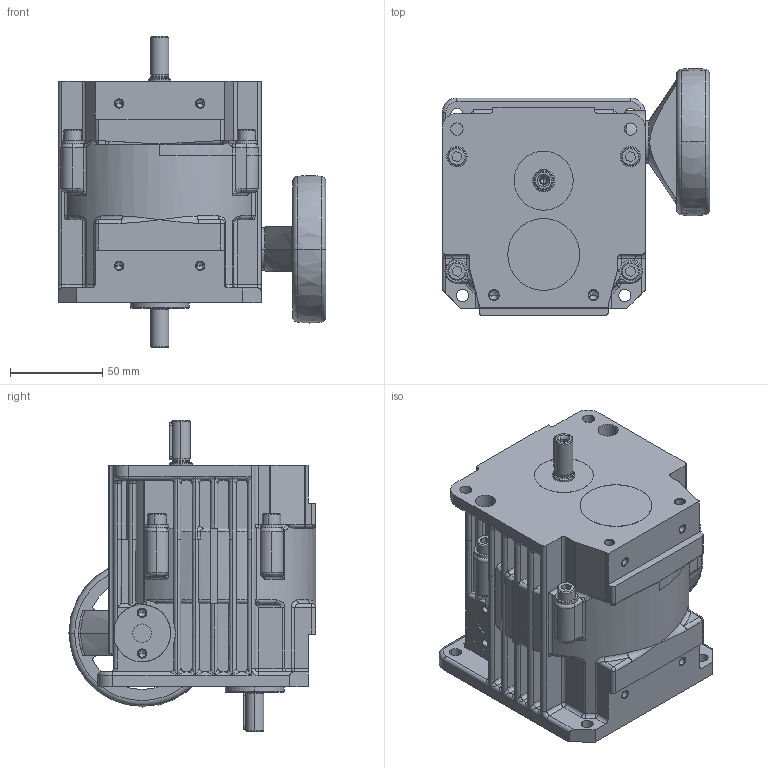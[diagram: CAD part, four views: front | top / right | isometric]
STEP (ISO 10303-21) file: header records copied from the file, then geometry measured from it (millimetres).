
FILE_DESCRIPTION(('CoCreate Modeling STEP Export'),'2;1');
FILE_NAME('R4_B14_HV_Freier_Antrieb_2D_3D.stp','2008-12-02T13:35:05',(''),(''),'CoCreate Modeling STEP processor for AP214 (Solid Model)','CoCreate Modeling 16.00A 16-Aug-2008 (C) Parametric Technology GmbH','');
FILE_SCHEMA(('AUTOMOTIVE_DESIGN { 1 0 10303 214 1 1 1 1 }'));
Products named in the file (2): R4_B14_HV_Freier_Antrieb_2D_3D_1; R4_B14_HV_Freier_Antrieb_2D_3D
Assembly tree (1 placements, depth 2):
  R4_B14_HV_Freier_Antrieb_2D_3D
    R4_B14_HV_Freier_Antrieb_2D_3D_1
Bounding box: 145 x 134.04 x 169 mm (x, y, z)
Volume: 960339.2 mm3; surface area: 158770.8 mm2
Topology: 1 solids, 2 shells, 1132 faces, 2845 edges, 1706 vertices
Faces by surface type: cylinder 431, plane 353, cone 112, bspline 108, torus 74, extrusion 42, sphere 12
Entity records: 55401 total; most frequent: CARTESIAN_POINT 32066, ORIENTED_EDGE 5524, DIRECTION 3915, EDGE_CURVE 2761, VERTEX_POINT 1704, AXIS2_PLACEMENT_3D 1333, VECTOR 1249, EDGE_LOOP 1229
